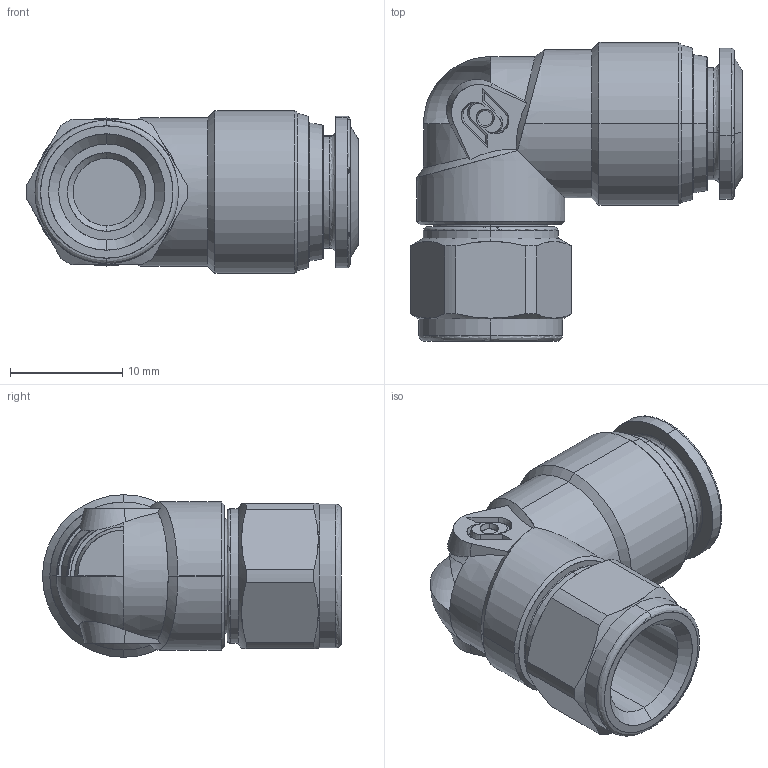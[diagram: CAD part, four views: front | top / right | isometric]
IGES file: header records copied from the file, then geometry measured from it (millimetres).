
Start section: SolidWorks IGES file using analytic representation for surfaces
Global section: file name: K:\Disegni Esecutivi\Serie 57000\ASSIEMI_57000\57106\ASSIEMI_PIENI_57106\5710600005.IGS; native system: SolidWorks 2008; preprocessor: SolidWorks 2008; author: cad02; date: 080205.155558; units: millimetre
Bounding box: 29.6 x 26.65 x 14.5 mm (x, y, z)
Surface area: 2676.6 mm2 (no closed solid volume)
Topology: 0 solids, 0 shells, 150 faces, 1817 edges, 1813 vertices
Faces by surface type: revolution 82, bspline 68
